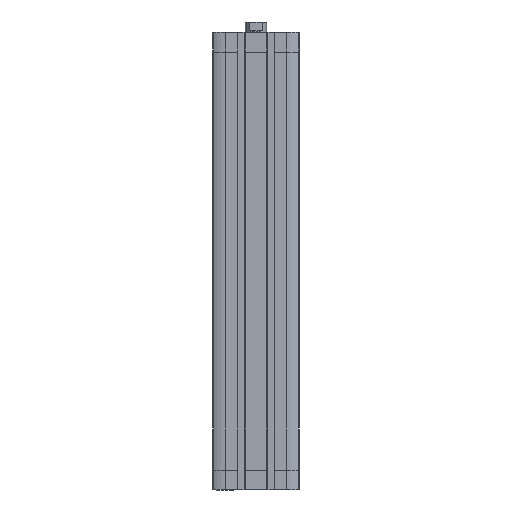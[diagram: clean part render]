
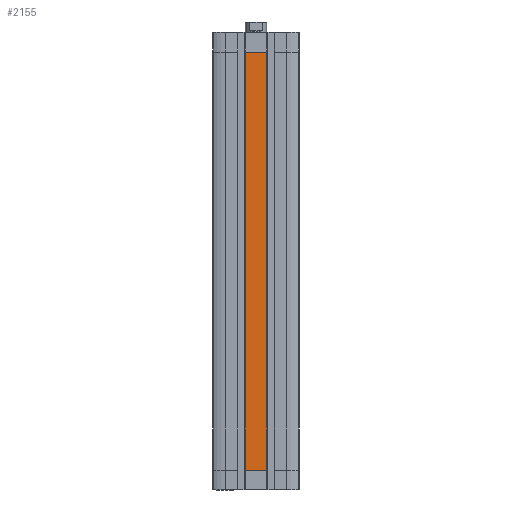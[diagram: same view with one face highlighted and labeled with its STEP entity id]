
A CAD part, front view. The second image highlights one B-rep face of the part: STEP entity #2155.
In plain terms, the highlighted planar face has unit normal (0, -1, 0).
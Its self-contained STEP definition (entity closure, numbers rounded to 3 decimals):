
#92 = LINE ( 'NONE', #9280, #6687 ) ;
#633 = DIRECTION ( 'NONE',  ( 0., 0., -1. ) ) ;
#1430 = CARTESIAN_POINT ( 'NONE',  ( -8., -32.5, -330. ) ) ;
#2007 = ORIENTED_EDGE ( 'NONE', *, *, #14881, .T. ) ;
#2155 = ADVANCED_FACE ( 'NONE', ( #13777 ), #13494, .T. ) ;
#2243 = DIRECTION ( 'NONE',  ( 0., 0., 1. ) ) ;
#2257 = DIRECTION ( 'NONE',  ( 1., 0., 0. ) ) ;
#2552 = ORIENTED_EDGE ( 'NONE', *, *, #8762, .T. ) ;
#3812 = LINE ( 'NONE', #12847, #9704 ) ;
#3899 = VERTEX_POINT ( 'NONE', #10170 ) ;
#5327 = CARTESIAN_POINT ( 'NONE',  ( -8., -32.5, -330. ) ) ;
#5765 = DIRECTION ( 'NONE',  ( -1., 0., 0. ) ) ;
#6403 = CARTESIAN_POINT ( 'NONE',  ( -8., -32.5, -330. ) ) ;
#6469 = EDGE_CURVE ( 'NONE', #14415, #8632, #3812, .T. ) ;
#6558 = ORIENTED_EDGE ( 'NONE', *, *, #6469, .T. ) ;
#6687 = VECTOR ( 'NONE', #2243, 1000. ) ;
#6987 = VECTOR ( 'NONE', #633, 1000. ) ;
#7449 = VERTEX_POINT ( 'NONE', #1430 ) ;
#7471 = VECTOR ( 'NONE', #2257, 1000. ) ;
#7607 = DIRECTION ( 'NONE',  ( 0., 0., -1. ) ) ;
#8421 = CARTESIAN_POINT ( 'NONE',  ( -8., -32.5, -15. ) ) ;
#8632 = VERTEX_POINT ( 'NONE', #8421 ) ;
#8762 = EDGE_CURVE ( 'NONE', #3899, #14415, #92, .T. ) ;
#9280 = CARTESIAN_POINT ( 'NONE',  ( 8., -32.5, -330. ) ) ;
#9704 = VECTOR ( 'NONE', #5765, 1000. ) ;
#10170 = CARTESIAN_POINT ( 'NONE',  ( 8., -32.5, -330. ) ) ;
#10563 = LINE ( 'NONE', #12826, #7471 ) ;
#12516 = EDGE_CURVE ( 'NONE', #8632, #7449, #13274, .T. ) ;
#12826 = CARTESIAN_POINT ( 'NONE',  ( -8., -32.5, -330. ) ) ;
#12847 = CARTESIAN_POINT ( 'NONE',  ( 0., -32.5, -15. ) ) ;
#13274 = LINE ( 'NONE', #5327, #6987 ) ;
#13494 = PLANE ( 'NONE',  #14457 ) ;
#13521 = EDGE_LOOP ( 'NONE', ( #2007, #2552, #6558, #13935 ) ) ;
#13777 = FACE_OUTER_BOUND ( 'NONE', #13521, .T. ) ;
#13935 = ORIENTED_EDGE ( 'NONE', *, *, #12516, .T. ) ;
#14415 = VERTEX_POINT ( 'NONE', #15267 ) ;
#14457 = AXIS2_PLACEMENT_3D ( 'NONE', #6403, #14677, #7607 ) ;
#14677 = DIRECTION ( 'NONE',  ( 0., -1., 0. ) ) ;
#14881 = EDGE_CURVE ( 'NONE', #7449, #3899, #10563, .T. ) ;
#15267 = CARTESIAN_POINT ( 'NONE',  ( 8., -32.5, -15. ) ) ;
